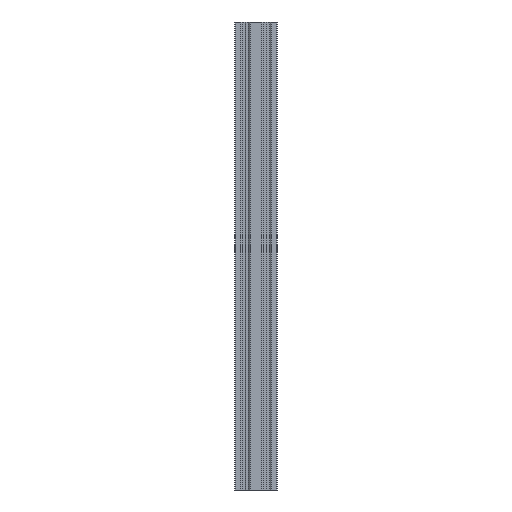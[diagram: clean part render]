
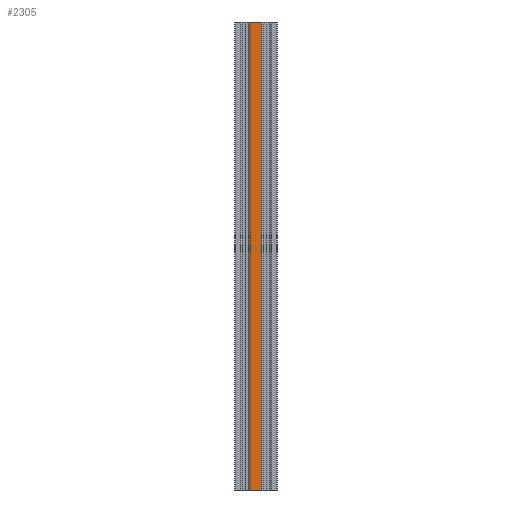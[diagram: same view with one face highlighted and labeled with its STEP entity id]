
A CAD part, left-side view. The second image highlights one B-rep face of the part: STEP entity #2305.
In plain terms, the highlighted planar face has unit normal (-1, 0, 0).
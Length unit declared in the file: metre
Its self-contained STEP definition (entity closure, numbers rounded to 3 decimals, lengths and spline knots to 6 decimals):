
#242=ORIENTED_EDGE('',*,*,#859,.F.);
#243=ORIENTED_EDGE('',*,*,#860,.F.);
#244=ORIENTED_EDGE('',*,*,#861,.T.);
#245=ORIENTED_EDGE('',*,*,#857,.T.);
#857=EDGE_CURVE('',#1141,#1140,#1411,.T.);
#859=EDGE_CURVE('',#1142,#1140,#1413,.T.);
#860=EDGE_CURVE('',#1143,#1142,#1414,.T.);
#861=EDGE_CURVE('',#1143,#1141,#1415,.T.);
#1140=VERTEX_POINT('',#3402);
#1141=VERTEX_POINT('',#3404);
#1142=VERTEX_POINT('',#3408);
#1143=VERTEX_POINT('',#3410);
#1411=LINE('',#3403,#1733);
#1413=LINE('',#3407,#1735);
#1414=LINE('',#3409,#1736);
#1415=LINE('',#3411,#1737);
#1733=VECTOR('',#2776,1.);
#1735=VECTOR('',#2780,1.);
#1736=VECTOR('',#2781,1.);
#1737=VECTOR('',#2782,1.);
#1953=EDGE_LOOP('',(#242,#243,#244,#245));
#2075=FACE_BOUND('',#1953,.T.);
#2195=PLANE('',#2436);
#2305=ADVANCED_FACE('',(#2075),#2195,.T.);
#2436=AXIS2_PLACEMENT_3D('',#3406,#2778,#2779);
#2776=DIRECTION('',(0.,0.,-1.));
#2778=DIRECTION('',(-1.,0.,0.));
#2779=DIRECTION('',(0.,1.,0.));
#2780=DIRECTION('',(0.,1.,0.));
#2781=DIRECTION('',(0.,0.,-1.));
#2782=DIRECTION('',(0.,1.,0.));
#3402=CARTESIAN_POINT('',(-0.050677,0.053259,-0.235597));
#3403=CARTESIAN_POINT('',(-0.050677,0.053259,0.208403));
#3404=CARTESIAN_POINT('',(-0.050677,0.053259,0.208403));
#3406=CARTESIAN_POINT('',(-0.050677,0.047839,0.208403));
#3407=CARTESIAN_POINT('',(-0.050677,0.047839,-0.235597));
#3408=CARTESIAN_POINT('',(-0.050677,0.042419,-0.235597));
#3409=CARTESIAN_POINT('',(-0.050677,0.042419,0.208403));
#3410=CARTESIAN_POINT('',(-0.050677,0.042419,0.208403));
#3411=CARTESIAN_POINT('',(-0.050677,0.047839,0.208403));
